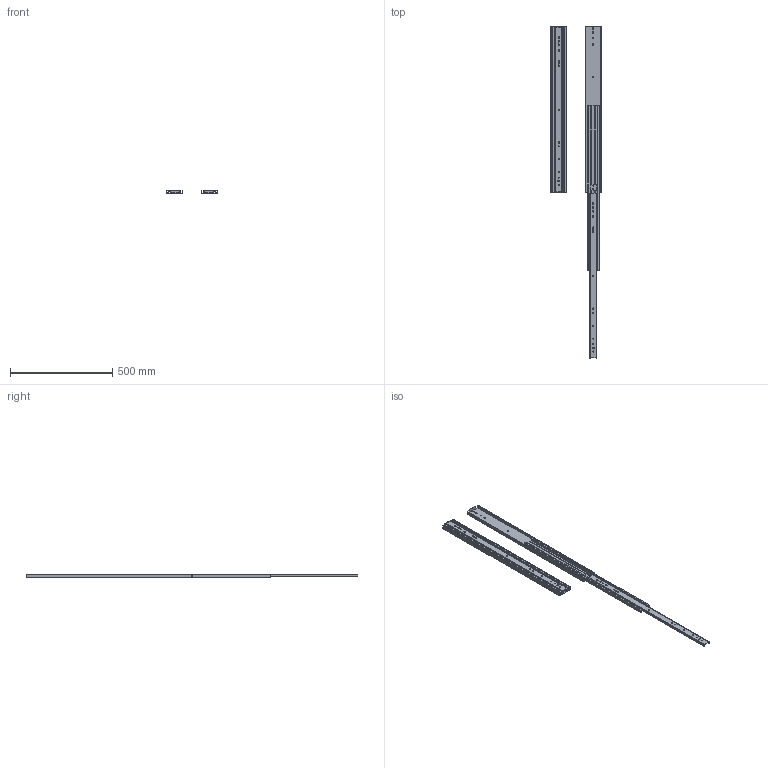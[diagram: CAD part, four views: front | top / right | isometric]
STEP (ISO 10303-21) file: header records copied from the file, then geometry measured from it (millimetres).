
FILE_DESCRIPTION((''),'2;1');
FILE_NAME('ASSEM1_1_2_3_4_5_6_7_8_9_10__12_ASM','2026-04-08T08:45:46',('T260078'),(''),'CREO PARAMETRIC BY PTC INC, 2025123','CREO PARAMETRIC BY PTC INC, 2025123','');
FILE_SCHEMA(('CONFIG_CONTROL_DESIGN','SHAPE_APPEARANCE_LAYERS_GROUPS'));
Length unit declared in the file: millimetre
Products named in the file (6): 76J01-32_X2_540B_X0_-M; 76J01-32_X2_540B_X0_-I; 76J01-32_X2_540B_X0_-O; 76J01-32_X2_540_X0__ASM; 76J01-32_X2_540B_X0_-_X2_5C5595_ASM; ASSEM1_1_2_3_4_5_6_7_8_9_10__12_ASM
Assembly tree (8 placements, depth 3):
  ASSEM1_1_2_3_4_5_6_7_8_9_10__12_ASM
    76J01-32_X2_540_X0__ASM
      76J01-32_X2_540B_X0_-M
      76J01-32_X2_540B_X0_-I
      76J01-32_X2_540B_X0_-O
    76J01-32_X2_540B_X0_-_X2_5C5595_ASM
      76J01-32_X2_540B_X0_-M
      76J01-32_X2_540B_X0_-I
      76J01-32_X2_540B_X0_-O
Bounding box: 245.44 x 1625.6 x 19.3 mm (x, y, z)
Volume: 999301.6 mm3; surface area: 892865.8 mm2
Topology: 6 solids, 6 shells, 404 faces, 1288 edges, 884 vertices
Faces by surface type: cylinder 204, plane 200
Entity records: 8784 total; most frequent: CARTESIAN_POINT 1335, DIRECTION 1317, ORIENTED_EDGE 1288, EDGE_CURVE 644, AXIS2_PLACEMENT_3D 458, VERTEX_POINT 442, VECTOR 401, LINE 401
